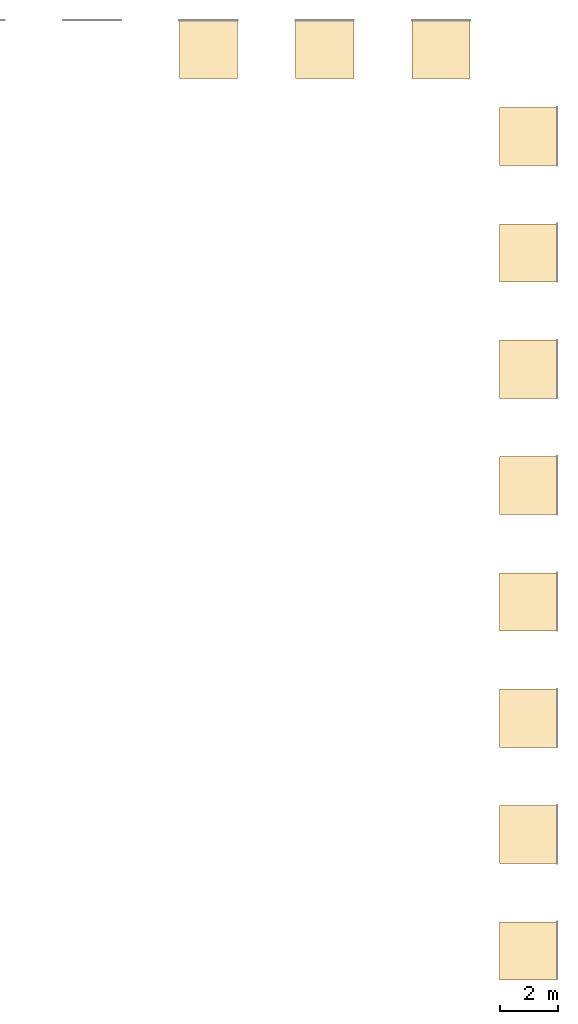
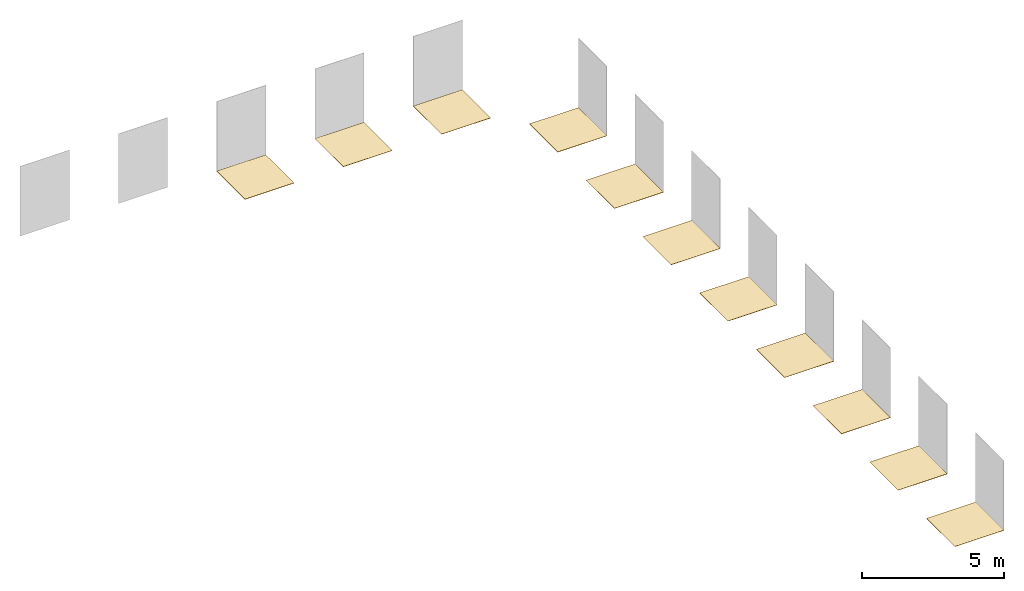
# One storey, part 2 of 2: 11 coverings.
"""IFC2X3 building model written with IfcOpenShell, lengths in millimetres."""

from ifc_helpers import new_model, entity, si_unit, converted_unit, derived_unit, direction, frame, frame_2d, origin, place, context, subcontext, project, spatial, rectangle, extrude, material, layer, layer_set, layer_usage, element, save


model = new_model("IFC2X3")

# Units and contexts
model_context = context("Model", 3, precision=0.01, world=origin(), true_north=direction((6.12303176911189e-17, 1.0)))
body_context = subcontext(model_context, "Body", "Model", "MODEL_VIEW")
ifc_project = project(units=[si_unit("LENGTHUNIT", "METRE", prefix="MILLI"), si_unit("AREAUNIT", "SQUARE_METRE"), si_unit("VOLUMEUNIT", "CUBIC_METRE"), converted_unit("PLANEANGLEUNIT", "DEGREE", entity("IfcRatioMeasure", 0.0174532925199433), si_unit("PLANEANGLEUNIT", "RADIAN"), dimensions=[0, 0, 0, 0, 0, 0, 0]), si_unit("MASSUNIT", "GRAM", prefix="KILO"), derived_unit("MASSDENSITYUNIT", [(si_unit("MASSUNIT", "GRAM", prefix="KILO"), 1), (si_unit("LENGTHUNIT", "METRE"), -3)]), si_unit("TIMEUNIT", "SECOND"), si_unit("FREQUENCYUNIT", "HERTZ"), si_unit("THERMODYNAMICTEMPERATUREUNIT", "DEGREE_CELSIUS"), derived_unit("THERMALTRANSMITTANCEUNIT", [(si_unit("MASSUNIT", "GRAM", prefix="KILO"), 1), (si_unit("THERMODYNAMICTEMPERATUREUNIT", "KELVIN"), -1), (si_unit("TIMEUNIT", "SECOND"), -3)]), derived_unit("VOLUMETRICFLOWRATEUNIT", [(si_unit("LENGTHUNIT", "METRE"), 3), (si_unit("TIMEUNIT", "SECOND"), -1)]), si_unit("ELECTRICCURRENTUNIT", "AMPERE"), si_unit("ELECTRICVOLTAGEUNIT", "VOLT"), si_unit("POWERUNIT", "WATT"), si_unit("FORCEUNIT", "NEWTON", prefix="KILO"), si_unit("ILLUMINANCEUNIT", "LUX"), si_unit("LUMINOUSFLUXUNIT", "LUMEN"), si_unit("LUMINOUSINTENSITYUNIT", "CANDELA"), derived_unit("USERDEFINED", [(si_unit("MASSUNIT", "GRAM", prefix="KILO"), -1), (si_unit("LENGTHUNIT", "METRE"), -2), (si_unit("TIMEUNIT", "SECOND"), 3), (si_unit("LUMINOUSFLUXUNIT", "LUMEN"), 1)]), derived_unit("LINEARVELOCITYUNIT", [(si_unit("LENGTHUNIT", "METRE"), 1), (si_unit("TIMEUNIT", "SECOND"), -1)]), si_unit("PRESSUREUNIT", "PASCAL"), derived_unit("USERDEFINED", [(si_unit("LENGTHUNIT", "METRE"), -2), (si_unit("MASSUNIT", "GRAM", prefix="KILO"), 1), (si_unit("TIMEUNIT", "SECOND"), -2)])], contexts=[model_context])

# Site, building, storey
site_placement = place(None, origin())
site = spatial("IfcSite", under=ifc_project, at=site_placement, Name="Default", CompositionType="ELEMENT")
building_placement = place(site_placement, origin())
building = spatial("IfcBuilding", under=site, at=building_placement, CompositionType="ELEMENT")
storey_placement = place(building_placement, origin())
storey = spatial("IfcBuildingStorey", under=building, at=storey_placement, Name="Level 1", CompositionType="ELEMENT", Elevation=0.0)

# Coverings
ifc_material_1 = material(Name="PGR_Porcelanosa_CeramicTiles_Boston_Topo-596x596mm-100179350")
ifc_layer_1 = layer(ifc_material_1, 10.5)
ifc_layer_set_1 = layer_set([ifc_layer_1], Name="Floor:PGR_Porcelanosa_CeramicTiles_Boston_Topo-596x596mm-100179350")
ifc_layer_usage_1 = layer_usage(ifc_layer_set_1, "AXIS3", "POSITIVE", 0.0)
covering_1_placement = place(storey_placement, origin())
element("IfcCovering", 1, at=covering_1_placement, inside=storey, material=ifc_layer_usage_1, Name="Floor:PGR_Porcelanosa_CeramicTiles_Boston_Topo-596x596mm-100179350", ObjectType="Floor:PGR_Porcelanosa_CeramicTiles_Boston_Topo-596x596mm-100179350", PredefinedType="FLOORING", context=body_context, shape_type="SweptSolid", body=[
    extrude(rectangle(XDim=2000.0, YDim=2000.0, at=frame_2d((-1.13686837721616e-13, 1.70530256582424e-13), x_axis=(1.0, 0.0))), frame((1527.07742659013, -2501.98267476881, 0.0), z_axis=(0.0, 0.0, -1.0), x_axis=(0.0, 1.0, 0.0)), (0.0, 0.0, 1.0), 10.5),
])
ifc_material_2 = material(Name="PGR_Porcelanosa_CeramicTiles_Boston_Bone-435x659mm-100179098")
ifc_layer_2 = layer(ifc_material_2, 10.5)
ifc_layer_set_2 = layer_set([ifc_layer_2], Name="Floor:PGR_Porcelanosa_CeramicTiles_Boston_Bone-435x659mm-100179098")
ifc_layer_usage_2 = layer_usage(ifc_layer_set_2, "AXIS3", "POSITIVE", 0.0)
covering_2_placement = place(storey_placement, origin())
element("IfcCovering", 2, at=covering_2_placement, inside=storey, material=ifc_layer_usage_2, Name="Floor:PGR_Porcelanosa_CeramicTiles_Boston_Bone-435x659mm-100179098", ObjectType="Floor:PGR_Porcelanosa_CeramicTiles_Boston_Bone-435x659mm-100179098", PredefinedType="FLOORING", context=body_context, shape_type="SweptSolid", body=[
    extrude(rectangle(XDim=2000.0, YDim=2000.0, at=frame_2d((5.11590769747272e-13, 1.70530256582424e-13), x_axis=(1.0, 0.0))), frame((1527.07742659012, -6501.98267476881, 0.0), z_axis=(0.0, 0.0, -1.0), x_axis=(0.0, 1.0, 0.0)), (0.0, 0.0, 1.0), 10.5),
])
ifc_material_3 = material(Name="PGR_Porcelanosa_CeramicTiles_Boston_Grafito-435x659mm-100179191")
ifc_layer_3 = layer(ifc_material_3, 10.5)
ifc_layer_set_3 = layer_set([ifc_layer_3], Name="Floor:PGR_Porcelanosa_CeramicTiles_Boston_Grafito-435x659mm-100179191")
ifc_layer_usage_3 = layer_usage(ifc_layer_set_3, "AXIS3", "POSITIVE", 0.0)
covering_3_placement = place(storey_placement, origin())
element("IfcCovering", 3, at=covering_3_placement, inside=storey, material=ifc_layer_usage_3, Name="Floor:PGR_Porcelanosa_CeramicTiles_Boston_Grafito-435x659mm-100179191", ObjectType="Floor:PGR_Porcelanosa_CeramicTiles_Boston_Grafito-435x659mm-100179191", PredefinedType="FLOORING", context=body_context, shape_type="SweptSolid", body=[
    extrude(rectangle(XDim=2000.0, YDim=2000.0, at=frame_2d((0.0, 1.70530256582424e-13), x_axis=(1.0, 0.0))), frame((1527.07742659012, -10501.9826747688, 0.0), z_axis=(0.0, 0.0, -1.0), x_axis=(0.0, 1.0, 0.0)), (0.0, 0.0, 1.0), 10.5),
])
ifc_material_4 = material(Name="PGR_Porcelanosa_CeramicTiles_Boston_Grafito_Antislip-435x659mm-100180940")
ifc_layer_4 = layer(ifc_material_4, 10.5)
ifc_layer_set_4 = layer_set([ifc_layer_4], Name="Floor:PGR_Porcelanosa_CeramicTiles_Boston_Grafito_Antislip-435x659mm-100180940")
ifc_layer_usage_4 = layer_usage(ifc_layer_set_4, "AXIS3", "POSITIVE", 0.0)
covering_4_placement = place(storey_placement, origin())
element("IfcCovering", 4, at=covering_4_placement, inside=storey, material=ifc_layer_usage_4, Name="Floor:PGR_Porcelanosa_CeramicTiles_Boston_Grafito_Antislip-435x659mm-100180940", ObjectType="Floor:PGR_Porcelanosa_CeramicTiles_Boston_Grafito_Antislip-435x659mm-100180940", PredefinedType="FLOORING", context=body_context, shape_type="SweptSolid", body=[
    extrude(rectangle(XDim=2000.0, YDim=2000.0, at=frame_2d((0.0, 1.70530256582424e-13), x_axis=(1.0, 0.0))), frame((1527.07742659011, -14501.9826747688, 0.0), z_axis=(0.0, 0.0, -1.0), x_axis=(0.0, 1.0, 0.0)), (0.0, 0.0, 1.0), 10.5),
])
ifc_material_5 = material(Name="PGR_Porcelanosa_CeramicTiles_Boston_Stone-435x659mm-100179183")
ifc_layer_5 = layer(ifc_material_5, 10.5)
ifc_layer_set_5 = layer_set([ifc_layer_5], Name="Floor:PGR_Porcelanosa_CeramicTiles_Boston_Stone-435x659mm-100179183")
ifc_layer_usage_5 = layer_usage(ifc_layer_set_5, "AXIS3", "POSITIVE", 0.0)
covering_5_placement = place(storey_placement, origin())
element("IfcCovering", 5, at=covering_5_placement, inside=storey, material=ifc_layer_usage_5, Name="Floor:PGR_Porcelanosa_CeramicTiles_Boston_Stone-435x659mm-100179183", ObjectType="Floor:PGR_Porcelanosa_CeramicTiles_Boston_Stone-435x659mm-100179183", PredefinedType="FLOORING", context=body_context, shape_type="SweptSolid", body=[
    extrude(rectangle(XDim=2000.0, YDim=2000.0, at=frame_2d((0.0, 1.70530256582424e-13), x_axis=(1.0, 0.0))), frame((1527.0774265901, -18501.9826747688, 0.0), z_axis=(0.0, 0.0, -1.0), x_axis=(0.0, 1.0, 0.0)), (0.0, 0.0, 1.0), 10.5),
])
ifc_material_6 = material(Name="PGR_Porcelanosa_CeramicTiles_Boston_Stone_Antislip-435x659mm-100180941")
ifc_layer_6 = layer(ifc_material_6, 10.5)
ifc_layer_set_6 = layer_set([ifc_layer_6], Name="Floor:PGR_Porcelanosa_CeramicTiles_Boston_Stone_Antislip-435x659mm-100180941")
ifc_layer_usage_6 = layer_usage(ifc_layer_set_6, "AXIS3", "POSITIVE", 0.0)
covering_6_placement = place(storey_placement, origin())
element("IfcCovering", 6, at=covering_6_placement, inside=storey, material=ifc_layer_usage_6, Name="Floor:PGR_Porcelanosa_CeramicTiles_Boston_Stone_Antislip-435x659mm-100180941", ObjectType="Floor:PGR_Porcelanosa_CeramicTiles_Boston_Stone_Antislip-435x659mm-100180941", PredefinedType="FLOORING", context=body_context, shape_type="SweptSolid", body=[
    extrude(rectangle(XDim=2000.0, YDim=2000.0, at=frame_2d((0.0, 1.70530256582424e-13), x_axis=(1.0, 0.0))), frame((1527.0774265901, -22501.9826747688, 0.0), z_axis=(0.0, 0.0, -1.0), x_axis=(0.0, 1.0, 0.0)), (0.0, 0.0, 1.0), 10.5),
])
ifc_material_7 = material(Name="PGR_Porcelanosa_CeramicTiles_Boston_Topo-435x659mm-100179203")
ifc_layer_7 = layer(ifc_material_7, 10.5)
ifc_layer_set_7 = layer_set([ifc_layer_7], Name="Floor:PGR_Porcelanosa_CeramicTiles_Boston_Topo-435x659mm-100179203")
ifc_layer_usage_7 = layer_usage(ifc_layer_set_7, "AXIS3", "POSITIVE", 0.0)
covering_7_placement = place(storey_placement, origin())
element("IfcCovering", 7, at=covering_7_placement, inside=storey, material=ifc_layer_usage_7, Name="Floor:PGR_Porcelanosa_CeramicTiles_Boston_Topo-435x659mm-100179203", ObjectType="Floor:PGR_Porcelanosa_CeramicTiles_Boston_Topo-435x659mm-100179203", PredefinedType="FLOORING", context=body_context, shape_type="SweptSolid", body=[
    extrude(rectangle(XDim=2000.0, YDim=2000.0, at=frame_2d((0.0, 1.70530256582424e-13), x_axis=(1.0, 0.0))), frame((1527.07742659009, -26501.9826747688, 0.0), z_axis=(0.0, 0.0, -1.0), x_axis=(0.0, 1.0, 0.0)), (0.0, 0.0, 1.0), 10.5),
])
ifc_material_8 = material(Name="PGR_Porcelanosa_CeramicTiles_Boston_Topo_Antislip-435x659mm-100180913")
ifc_layer_8 = layer(ifc_material_8, 10.5)
ifc_layer_set_8 = layer_set([ifc_layer_8], Name="Floor:PGR_Porcelanosa_CeramicTiles_Boston_Topo_Antislip-435x659mm-100180913")
ifc_layer_usage_8 = layer_usage(ifc_layer_set_8, "AXIS3", "POSITIVE", 0.0)
covering_8_placement = place(storey_placement, origin())
element("IfcCovering", 8, at=covering_8_placement, inside=storey, material=ifc_layer_usage_8, Name="Floor:PGR_Porcelanosa_CeramicTiles_Boston_Topo_Antislip-435x659mm-100180913", ObjectType="Floor:PGR_Porcelanosa_CeramicTiles_Boston_Topo_Antislip-435x659mm-100180913", PredefinedType="FLOORING", context=body_context, shape_type="SweptSolid", body=[
    extrude(rectangle(XDim=2000.0, YDim=2000.0, at=frame_2d((0.0, 1.70530256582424e-13), x_axis=(1.0, 0.0))), frame((1527.07742659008, -30501.9826747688, 0.0), z_axis=(0.0, 0.0, -1.0), x_axis=(0.0, 1.0, 0.0)), (0.0, 0.0, 1.0), 10.5),
])
ifc_material_9 = material(Name="PGR_Porcelanosa_CeramicTiles_Boston_Bone-596x1800mm-100179347")
ifc_layer_9 = layer(ifc_material_9, 11.5)
ifc_layer_set_9 = layer_set([ifc_layer_9], Name="Floor:PGR_Porcelanosa_CeramicTiles_Boston_Bone-596x1800mm-100179347")
ifc_layer_usage_9 = layer_usage(ifc_layer_set_9, "AXIS3", "POSITIVE", 0.0)
covering_9_placement = place(storey_placement, origin())
element("IfcCovering", 9, at=covering_9_placement, inside=storey, material=ifc_layer_usage_9, Name="Floor:PGR_Porcelanosa_CeramicTiles_Boston_Bone-596x1800mm-100179347", ObjectType="Floor:PGR_Porcelanosa_CeramicTiles_Boston_Bone-596x1800mm-100179347", PredefinedType="FLOORING", context=body_context, shape_type="SweptSolid", body=[
    extrude(rectangle(XDim=2000.0, YDim=2000.0, at=frame_2d((-1.13686837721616e-13, 0.0), x_axis=(1.0, 0.0))), frame((-1472.92257340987, 498.01732523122, 0.0), z_axis=(0.0, 0.0, -1.0), x_axis=(0.0, 1.0, 0.0)), (0.0, 0.0, 1.0), 11.5),
])
ifc_material_10 = material(Name="PGR_Porcelanosa_CeramicTiles_Boston_Stone-596x1800mm-100179318")
ifc_layer_10 = layer(ifc_material_10, 11.5)
ifc_layer_set_10 = layer_set([ifc_layer_10], Name="Floor:PGR_Porcelanosa_CeramicTiles_Boston_Stone-596x1800mm-100179318")
ifc_layer_usage_10 = layer_usage(ifc_layer_set_10, "AXIS3", "POSITIVE", 0.0)
covering_10_placement = place(storey_placement, origin())
element("IfcCovering", 10, at=covering_10_placement, inside=storey, material=ifc_layer_usage_10, Name="Floor:PGR_Porcelanosa_CeramicTiles_Boston_Stone-596x1800mm-100179318", ObjectType="Floor:PGR_Porcelanosa_CeramicTiles_Boston_Stone-596x1800mm-100179318", PredefinedType="FLOORING", context=body_context, shape_type="SweptSolid", body=[
    extrude(rectangle(XDim=2000.0, YDim=2000.0, at=frame_2d((-1.70530256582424e-13, 0.0), x_axis=(1.0, 0.0))), frame((-5472.92257340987, 498.017325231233, 0.0), z_axis=(0.0, 0.0, -1.0), x_axis=(0.0, 1.0, 0.0)), (0.0, 0.0, 1.0), 11.5),
])
ifc_material_11 = material(Name="PGR_Porcelanosa_CeramicTiles_Boston_Topo-596x1800mm-100179326")
ifc_layer_11 = layer(ifc_material_11, 11.5)
ifc_layer_set_11 = layer_set([ifc_layer_11], Name="Floor:PGR_Porcelanosa_CeramicTiles_Boston_Topo-596x1800mm-100179326")
ifc_layer_usage_11 = layer_usage(ifc_layer_set_11, "AXIS3", "POSITIVE", 0.0)
covering_11_placement = place(storey_placement, origin())
element("IfcCovering", 11, at=covering_11_placement, inside=storey, material=ifc_layer_usage_11, Name="Floor:PGR_Porcelanosa_CeramicTiles_Boston_Topo-596x1800mm-100179326", ObjectType="Floor:PGR_Porcelanosa_CeramicTiles_Boston_Topo-596x1800mm-100179326", PredefinedType="FLOORING", context=body_context, shape_type="SweptSolid", body=[
    extrude(rectangle(XDim=2000.0, YDim=2000.0, at=frame_2d((-1.70530256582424e-13, 0.0), x_axis=(1.0, 0.0))), frame((-9472.92257340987, 498.017325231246, 0.0), z_axis=(0.0, 0.0, -1.0), x_axis=(0.0, 1.0, 0.0)), (0.0, 0.0, 1.0), 11.5),
])

save(model, "model.ifc")
